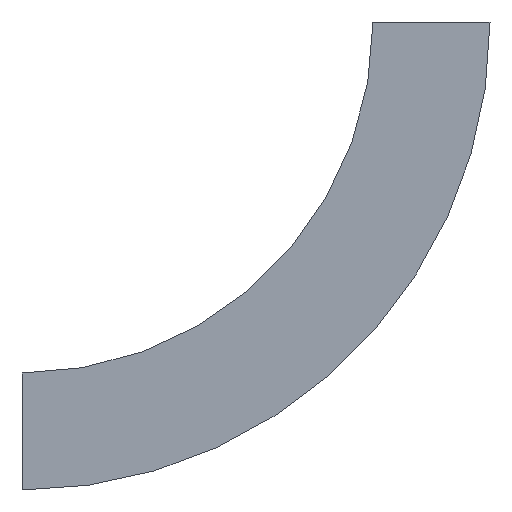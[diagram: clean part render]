
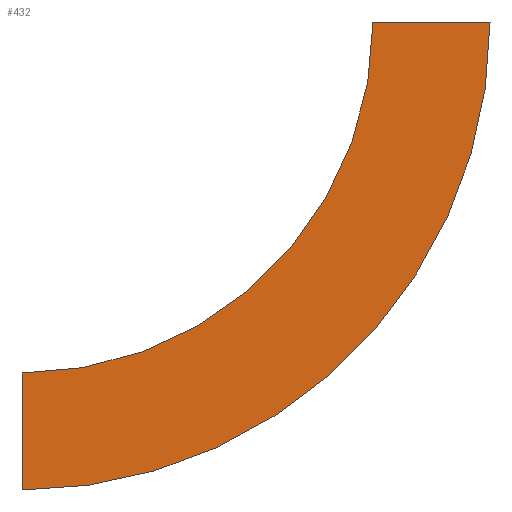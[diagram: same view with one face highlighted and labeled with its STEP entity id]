
A CAD part, left-side view. The second image highlights one B-rep face of the part: STEP entity #432.
In plain terms, the highlighted planar face has unit normal (-1, 0, 0) as drawn and (1, 0, 0) by its records, which use the part's own axes.
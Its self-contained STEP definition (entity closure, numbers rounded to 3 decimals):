
#7 = CARTESIAN_POINT ( 'NONE',  ( 0., -100., 0. ) ) ;
#23 = VERTEX_POINT ( 'NONE', #162 ) ;
#29 = AXIS2_PLACEMENT_3D ( 'NONE', #298, #507, #387 ) ;
#33 = DIRECTION ( 'NONE',  ( -1., 0., 0. ) ) ;
#63 = ORIENTED_EDGE ( 'NONE', *, *, #198, .F. ) ;
#66 = LINE ( 'NONE', #340, #423 ) ;
#122 = CARTESIAN_POINT ( 'NONE',  ( 0., -100., 0. ) ) ;
#149 = ORIENTED_EDGE ( 'NONE', *, *, #368, .T. ) ;
#150 = DIRECTION ( 'NONE',  ( 1., 0., 0. ) ) ;
#153 = VECTOR ( 'NONE', #185, 1000. ) ;
#159 = EDGE_CURVE ( 'NONE', #475, #523, #209, .T. ) ;
#162 = CARTESIAN_POINT ( 'NONE',  ( 0., 300., -400. ) ) ;
#185 = DIRECTION ( 'NONE',  ( 0., 1., 0. ) ) ;
#190 = EDGE_CURVE ( 'NONE', #23, #523, #66, .T. ) ;
#195 = AXIS2_PLACEMENT_3D ( 'NONE', #381, #150, #295 ) ;
#198 = EDGE_CURVE ( 'NONE', #257, #475, #359, .T. ) ;
#209 = CIRCLE ( 'NONE', #195, 300. ) ;
#216 = ORIENTED_EDGE ( 'NONE', *, *, #190, .T. ) ;
#223 = FACE_OUTER_BOUND ( 'NONE', #466, .T. ) ;
#226 = DIRECTION ( 'NONE',  ( 0., 0., 1. ) ) ;
#240 = CARTESIAN_POINT ( 'NONE',  ( 0., 0., 0. ) ) ;
#257 = VERTEX_POINT ( 'NONE', #7 ) ;
#295 = DIRECTION ( 'NONE',  ( 0., -1., 0. ) ) ;
#298 = CARTESIAN_POINT ( 'NONE',  ( 0., 300., 0. ) ) ;
#340 = CARTESIAN_POINT ( 'NONE',  ( 0., 300., -400. ) ) ;
#359 = LINE ( 'NONE', #498, #153 ) ;
#368 = EDGE_CURVE ( 'NONE', #257, #23, #539, .T. ) ;
#371 = CARTESIAN_POINT ( 'NONE',  ( 0., 300., -300. ) ) ;
#378 = AXIS2_PLACEMENT_3D ( 'NONE', #122, #33, #226 ) ;
#381 = CARTESIAN_POINT ( 'NONE',  ( 0., 300., 0. ) ) ;
#387 = DIRECTION ( 'NONE',  ( 0., -1., 0. ) ) ;
#401 = PLANE ( 'NONE',  #378 ) ;
#423 = VECTOR ( 'NONE', #487, 1000. ) ;
#432 = ADVANCED_FACE ( 'NONE', ( #223 ), #401, .F. ) ;
#466 = EDGE_LOOP ( 'NONE', ( #510, #63, #149, #216 ) ) ;
#475 = VERTEX_POINT ( 'NONE', #240 ) ;
#487 = DIRECTION ( 'NONE',  ( 0., 0., 1. ) ) ;
#498 = CARTESIAN_POINT ( 'NONE',  ( 0., -100., 0. ) ) ;
#507 = DIRECTION ( 'NONE',  ( 1., 0., 0. ) ) ;
#510 = ORIENTED_EDGE ( 'NONE', *, *, #159, .F. ) ;
#523 = VERTEX_POINT ( 'NONE', #371 ) ;
#539 = CIRCLE ( 'NONE', #29, 400. ) ;
